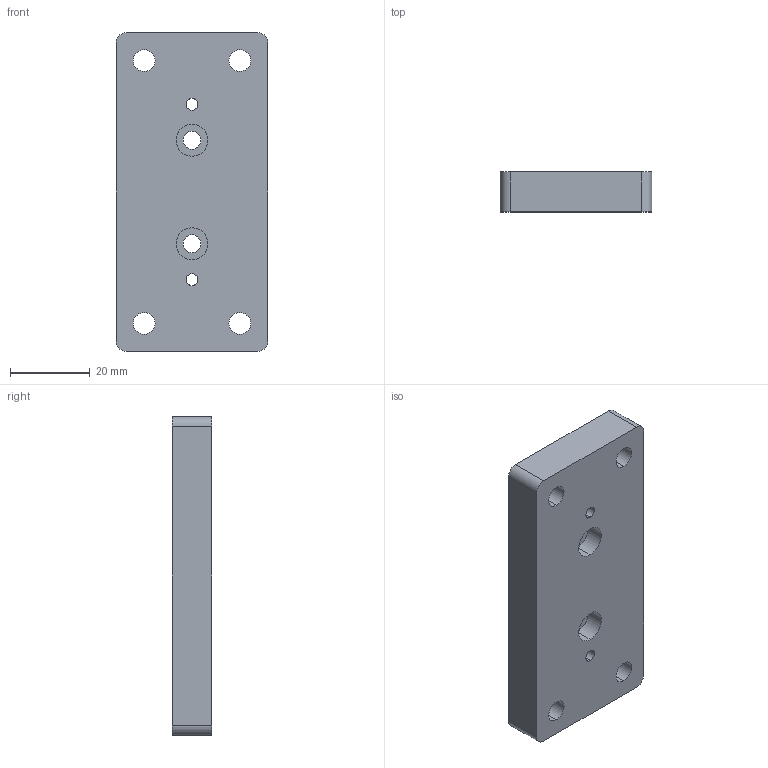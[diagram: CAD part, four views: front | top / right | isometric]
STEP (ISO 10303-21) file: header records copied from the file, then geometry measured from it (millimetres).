
FILE_DESCRIPTION (( 'STEP AP214' ), '1' );
FILE_NAME ('GZ21.06_V1气缸安装板.STEP', '2021-02-26T01:22:25', ( '微软中国' ), ( 'Microsoft' ), 'SwSTEP 2.0', 'SolidWorks 2017', '' );
FILE_SCHEMA (( 'AUTOMOTIVE_DESIGN' ));
Length unit declared in the file: millimetre
Products named in the file (1): GZ21.06_V1气缸安装板
Bounding box: 38 x 10 x 80 mm (x, y, z)
Volume: 27371.4 mm3; surface area: 9690.3 mm2
Topology: 1 solids, 1 shells, 44 faces, 108 edges, 72 vertices
Faces by surface type: cylinder 32, plane 12
Entity records: 1402 total; most frequent: DIRECTION 262, CARTESIAN_POINT 225, ORIENTED_EDGE 216, AXIS2_PLACEMENT_3D 109, EDGE_CURVE 108, VERTEX_POINT 72, EDGE_LOOP 66, CIRCLE 64
